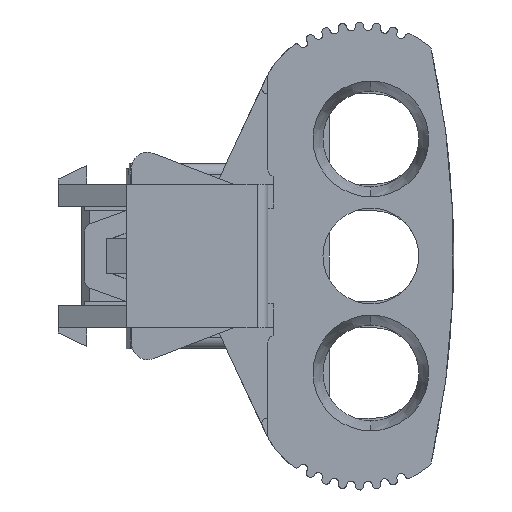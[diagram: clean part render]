
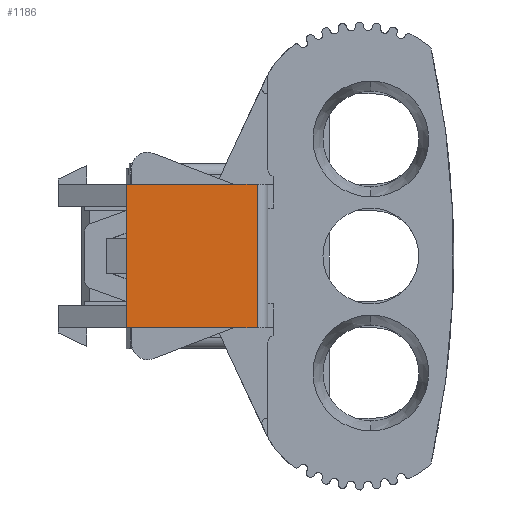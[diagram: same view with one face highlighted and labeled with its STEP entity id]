
A CAD part, front view. The second image highlights one B-rep face of the part: STEP entity #1186.
In plain terms, the highlighted planar face has unit normal (0, -1, 0).
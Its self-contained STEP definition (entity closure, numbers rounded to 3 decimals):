
#148 = EDGE_CURVE ( 'NONE', #2458, #6069, #506, .T. ) ;
#201 = EDGE_CURVE ( 'NONE', #2458, #1740, #4115, .T. ) ;
#221 = EDGE_CURVE ( 'NONE', #2661, #1740, #9103, .T. ) ;
#324 = CARTESIAN_POINT ( 'NONE',  ( -1., 0., 18. ) ) ;
#328 = EDGE_CURVE ( 'NONE', #2661, #6069, #524, .T. ) ;
#331 = CARTESIAN_POINT ( 'NONE',  ( 0., 0., 18. ) ) ;
#490 = DIRECTION ( 'NONE',  ( 0., 0., 1. ) ) ;
#506 = LINE ( 'NONE', #3296, #7763 ) ;
#524 = LINE ( 'NONE', #1926, #1987 ) ;
#603 = CARTESIAN_POINT ( 'NONE',  ( -13.3, 0., 6.75 ) ) ;
#1186 = ADVANCED_FACE ( 'NONE', ( #5018 ), #4591, .F. ) ;
#1365 = DIRECTION ( 'NONE',  ( 0., 1., 0. ) ) ;
#1740 = VERTEX_POINT ( 'NONE', #5239 ) ;
#1849 = AXIS2_PLACEMENT_3D ( 'NONE', #331, #1365, #7575 ) ;
#1926 = CARTESIAN_POINT ( 'NONE',  ( -13.3, 0., 18. ) ) ;
#1987 = VECTOR ( 'NONE', #2197, 1000. ) ;
#2197 = DIRECTION ( 'NONE',  ( 0., 0., -1. ) ) ;
#2458 = VERTEX_POINT ( 'NONE', #3378 ) ;
#2629 = DIRECTION ( 'NONE',  ( -1., 0., 0. ) ) ;
#2661 = VERTEX_POINT ( 'NONE', #3976 ) ;
#2883 = ORIENTED_EDGE ( 'NONE', *, *, #148, .F. ) ;
#2939 = DIRECTION ( 'NONE',  ( 1., 0., 0. ) ) ;
#3296 = CARTESIAN_POINT ( 'NONE',  ( -13.3, 0., -6.75 ) ) ;
#3300 = CARTESIAN_POINT ( 'NONE',  ( -13.3, 0., -6.75 ) ) ;
#3378 = CARTESIAN_POINT ( 'NONE',  ( -1., 0., -6.75 ) ) ;
#3976 = CARTESIAN_POINT ( 'NONE',  ( -13.3, 0., 6.75 ) ) ;
#4115 = LINE ( 'NONE', #324, #6885 ) ;
#4300 = ORIENTED_EDGE ( 'NONE', *, *, #221, .F. ) ;
#4591 = PLANE ( 'NONE',  #1849 ) ;
#5018 = FACE_OUTER_BOUND ( 'NONE', #6701, .T. ) ;
#5239 = CARTESIAN_POINT ( 'NONE',  ( -1., 0., 6.75 ) ) ;
#6069 = VERTEX_POINT ( 'NONE', #3300 ) ;
#6701 = EDGE_LOOP ( 'NONE', ( #2883, #7383, #4300, #8840 ) ) ;
#6885 = VECTOR ( 'NONE', #490, 1000. ) ;
#7383 = ORIENTED_EDGE ( 'NONE', *, *, #201, .T. ) ;
#7575 = DIRECTION ( 'NONE',  ( -1., 0., 0. ) ) ;
#7763 = VECTOR ( 'NONE', #2629, 1000. ) ;
#8840 = ORIENTED_EDGE ( 'NONE', *, *, #328, .T. ) ;
#8878 = VECTOR ( 'NONE', #2939, 1000. ) ;
#9103 = LINE ( 'NONE', #603, #8878 ) ;
